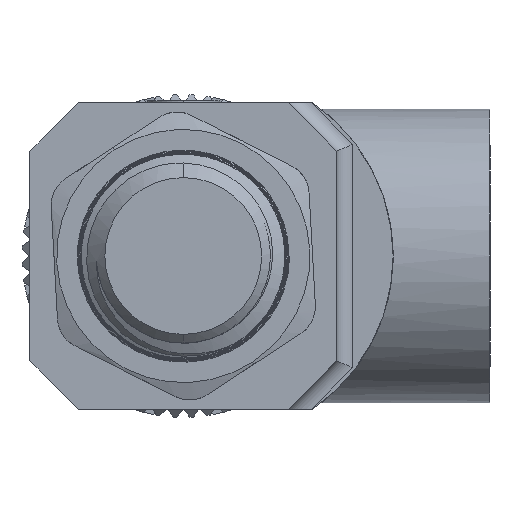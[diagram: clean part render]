
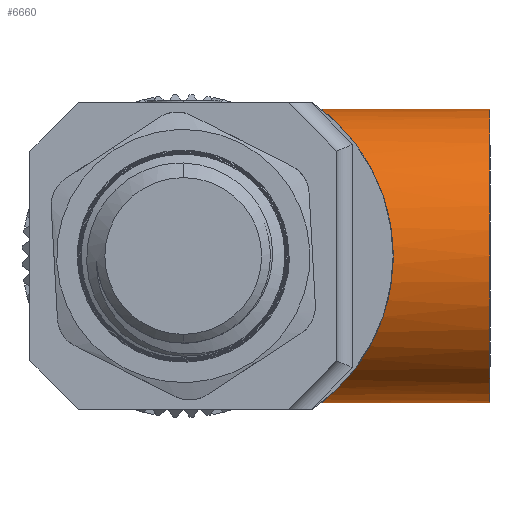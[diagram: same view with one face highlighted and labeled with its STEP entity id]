
A CAD part, front view. The second image highlights one B-rep face of the part: STEP entity #6660.
In plain terms, the highlighted cylindrical face has radius 9.1 mm (diameter 18.2 mm), a partial arc.
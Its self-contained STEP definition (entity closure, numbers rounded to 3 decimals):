
#117 = ORIENTED_EDGE ( 'NONE', *, *, #10950, .T. ) ;
#471 = DIRECTION ( 'NONE',  ( 0., 0., 1. ) ) ;
#591 = DIRECTION ( 'NONE',  ( -1., 0., 0. ) ) ;
#596 = CARTESIAN_POINT ( 'NONE',  ( 0., 0., 9.1 ) ) ;
#612 = CARTESIAN_POINT ( 'NONE',  ( 12.9, -8.973, -1.548 ) ) ;
#677 = CARTESIAN_POINT ( 'NONE',  ( 12.01, -7.814, 4.699 ) ) ;
#733 = CARTESIAN_POINT ( 'NONE',  ( 12.587, -8.573, 3.068 ) ) ;
#788 = CARTESIAN_POINT ( 'NONE',  ( 8.942, -2.453, 8.768 ) ) ;
#1077 = CARTESIAN_POINT ( 'NONE',  ( 9.897, -4.596, -7.859 ) ) ;
#1134 = CARTESIAN_POINT ( 'NONE',  ( 9.505, -3.834, -8.258 ) ) ;
#1321 = CARTESIAN_POINT ( 'NONE',  ( 19., 0., 9.1 ) ) ;
#1975 = CARTESIAN_POINT ( 'NONE',  ( 11.649, -7.319, 5.415 ) ) ;
#2009 = VERTEX_POINT ( 'NONE', #12297 ) ;
#2038 = CARTESIAN_POINT ( 'NONE',  ( 12.895, -8.967, 1.581 ) ) ;
#2211 = CARTESIAN_POINT ( 'NONE',  ( 11.127, -6.577, 6.295 ) ) ;
#2308 = VECTOR ( 'NONE', #17580, 1000. ) ;
#2383 = VERTEX_POINT ( 'NONE', #1321 ) ;
#2391 = CARTESIAN_POINT ( 'NONE',  ( 8.531, 0., -9.1 ) ) ;
#2453 = CARTESIAN_POINT ( 'NONE',  ( 10.448, -5.548, -7.236 ) ) ;
#3357 = CARTESIAN_POINT ( 'NONE',  ( 12.227, -8.102, -4.153 ) ) ;
#3642 = CARTESIAN_POINT ( 'NONE',  ( 8.85, -2.161, -8.845 ) ) ;
#4038 = CYLINDRICAL_SURFACE ( 'NONE', #5998, 9.1 ) ;
#4197 = ORIENTED_EDGE ( 'NONE', *, *, #9355, .T. ) ;
#4428 = LINE ( 'NONE', #16140, #2308 ) ;
#4791 = CARTESIAN_POINT ( 'NONE',  ( 13., -9.1, 0.327 ) ) ;
#4893 = EDGE_CURVE ( 'NONE', #11472, #2009, #4428, .T. ) ;
#5023 = CARTESIAN_POINT ( 'NONE',  ( 11.271, -6.792, -6.083 ) ) ;
#5190 = CARTESIAN_POINT ( 'NONE',  ( 9.633, -4.092, -8.133 ) ) ;
#5637 = CARTESIAN_POINT ( 'NONE',  ( 19., 0., -9.1 ) ) ;
#5998 = AXIS2_PLACEMENT_3D ( 'NONE', #9533, #17542, #6737 ) ;
#6132 = CARTESIAN_POINT ( 'NONE',  ( 12.604, -8.595, -3.049 ) ) ;
#6193 = CARTESIAN_POINT ( 'NONE',  ( 12.934, -9.016, 1.273 ) ) ;
#6312 = CARTESIAN_POINT ( 'NONE',  ( 8.636, -1.257, -9.018 ) ) ;
#6660 = ADVANCED_FACE ( 'NONE', ( #14440 ), #4038, .T. ) ;
#6737 = DIRECTION ( 'NONE',  ( 0., 0., 1. ) ) ;
#7386 = CARTESIAN_POINT ( 'NONE',  ( 12.988, -9.085, -0.613 ) ) ;
#7503 = CARTESIAN_POINT ( 'NONE',  ( 12.329, -8.236, -3.882 ) ) ;
#7615 = CARTESIAN_POINT ( 'NONE',  ( 10.721, -5.973, 6.889 ) ) ;
#8822 = CARTESIAN_POINT ( 'NONE',  ( 11.261, -6.771, 6.086 ) ) ;
#8880 = CARTESIAN_POINT ( 'NONE',  ( 11.537, -7.166, -5.639 ) ) ;
#8931 = CARTESIAN_POINT ( 'NONE',  ( 8.619, -1.256, 9.034 ) ) ;
#9053 = CARTESIAN_POINT ( 'NONE',  ( 9.15, -3.026, -8.587 ) ) ;
#9126 = VERTEX_POINT ( 'NONE', #11261 ) ;
#9230 = CARTESIAN_POINT ( 'NONE',  ( 10.035, -4.841, -7.711 ) ) ;
#9267 = VECTOR ( 'NONE', #14133, 1000. ) ;
#9355 = EDGE_CURVE ( 'NONE', #9126, #2009, #9899, .T. ) ;
#9533 = CARTESIAN_POINT ( 'NONE',  ( 0., 0., 0. ) ) ;
#9713 = EDGE_LOOP ( 'NONE', ( #11964, #9816, #117, #4197 ) ) ;
#9816 = ORIENTED_EDGE ( 'NONE', *, *, #16123, .T. ) ;
#9899 = B_SPLINE_CURVE_WITH_KNOTS ( 'NONE', 3,
 ( #17066, #10299, #8931, #10129, #788, #13035, #14320, #15730, #10360, #15561, #7615, #2211, #8822, #11549, #1975, #677, #12922, #11718, #733, #10179, #15495, #2038, #6193, #14146, #4791, #15673, #7386, #14263, #612, #11482, #6132, #7503, #3357, #14200, #16999, #8880, #5023, #16034, #2453, #9230, #1077, #5190, #1134, #17404, #9053, #11842, #3642, #15970, #6312, #13329, #10409, #2391 ),
 .UNSPECIFIED., .F., .F.,
 ( 4, 2, 2, 2, 2, 2, 2, 2, 2, 2, 2, 2, 2, 2, 2, 2, 2, 2, 2, 2, 2, 2, 2, 2, 2, 4 ),
 ( 0., 0.002, 0.003, 0.004, 0.006, 0.008, 0.008, 0.009, 0.011, 0.012, 0.013, 0.014, 0.015, 0.016, 0.017, 0.019, 0.02, 0.021, 0.023, 0.024, 0.025, 0.026, 0.027, 0.028, 0.029, 0.03 ),
 .UNSPECIFIED. ) ;
#10129 = CARTESIAN_POINT ( 'NONE',  ( 8.849, -2.158, 8.846 ) ) ;
#10179 = CARTESIAN_POINT ( 'NONE',  ( 12.732, -8.76, 2.485 ) ) ;
#10299 = CARTESIAN_POINT ( 'NONE',  ( 8.531, -0.638, 9.1 ) ) ;
#10360 = CARTESIAN_POINT ( 'NONE',  ( 9.894, -4.601, 7.872 ) ) ;
#10409 = CARTESIAN_POINT ( 'NONE',  ( 8.531, -0.316, -9.1 ) ) ;
#10539 = LINE ( 'NONE', #596, #9267 ) ;
#10950 = EDGE_CURVE ( 'NONE', #2383, #9126, #10539, .T. ) ;
#11261 = CARTESIAN_POINT ( 'NONE',  ( 8.531, 0., 9.1 ) ) ;
#11472 = VERTEX_POINT ( 'NONE', #5637 ) ;
#11482 = CARTESIAN_POINT ( 'NONE',  ( 12.75, -8.782, -2.467 ) ) ;
#11549 = CARTESIAN_POINT ( 'NONE',  ( 11.522, -7.143, 5.646 ) ) ;
#11718 = CARTESIAN_POINT ( 'NONE',  ( 12.503, -8.464, 3.356 ) ) ;
#11842 = CARTESIAN_POINT ( 'NONE',  ( 8.944, -2.457, -8.767 ) ) ;
#11964 = ORIENTED_EDGE ( 'NONE', *, *, #4893, .F. ) ;
#12297 = CARTESIAN_POINT ( 'NONE',  ( 8.531, 0., -9.1 ) ) ;
#12922 = CARTESIAN_POINT ( 'NONE',  ( 12.227, -8.102, 4.187 ) ) ;
#13035 = CARTESIAN_POINT ( 'NONE',  ( 9.148, -3.019, 8.59 ) ) ;
#13329 = CARTESIAN_POINT ( 'NONE',  ( 8.553, -0.636, -9.083 ) ) ;
#14133 = DIRECTION ( 'NONE',  ( -1., 0., 0. ) ) ;
#14146 = CARTESIAN_POINT ( 'NONE',  ( 12.986, -9.083, 0.643 ) ) ;
#14200 = CARTESIAN_POINT ( 'NONE',  ( 12.012, -7.815, -4.672 ) ) ;
#14259 = CIRCLE ( 'NONE', #15422, 9.1 ) ;
#14263 = CARTESIAN_POINT ( 'NONE',  ( 12.938, -9.021, -1.235 ) ) ;
#14320 = CARTESIAN_POINT ( 'NONE',  ( 9.261, -3.294, 8.488 ) ) ;
#14440 = FACE_OUTER_BOUND ( 'NONE', #9713, .T. ) ;
#15422 = AXIS2_PLACEMENT_3D ( 'NONE', #16862, #591, #471 ) ;
#15495 = CARTESIAN_POINT ( 'NONE',  ( 12.794, -8.839, 2.187 ) ) ;
#15561 = CARTESIAN_POINT ( 'NONE',  ( 10.443, -5.539, 7.242 ) ) ;
#15673 = CARTESIAN_POINT ( 'NONE',  ( 13., -9.1, -0.3 ) ) ;
#15730 = CARTESIAN_POINT ( 'NONE',  ( 9.622, -4.094, 8.148 ) ) ;
#15970 = CARTESIAN_POINT ( 'NONE',  ( 8.697, -1.562, -8.97 ) ) ;
#16034 = CARTESIAN_POINT ( 'NONE',  ( 10.728, -5.983, -6.88 ) ) ;
#16123 = EDGE_CURVE ( 'NONE', #11472, #2383, #14259, .T. ) ;
#16140 = CARTESIAN_POINT ( 'NONE',  ( 0., 0., -9.1 ) ) ;
#16862 = CARTESIAN_POINT ( 'NONE',  ( 19., 0., 0. ) ) ;
#16999 = CARTESIAN_POINT ( 'NONE',  ( 11.898, -7.661, -4.92 ) ) ;
#17066 = CARTESIAN_POINT ( 'NONE',  ( 8.531, 0., 9.1 ) ) ;
#17404 = CARTESIAN_POINT ( 'NONE',  ( 9.264, -3.3, -8.485 ) ) ;
#17542 = DIRECTION ( 'NONE',  ( -1., 0., 0. ) ) ;
#17580 = DIRECTION ( 'NONE',  ( -1., 0., 0. ) ) ;
